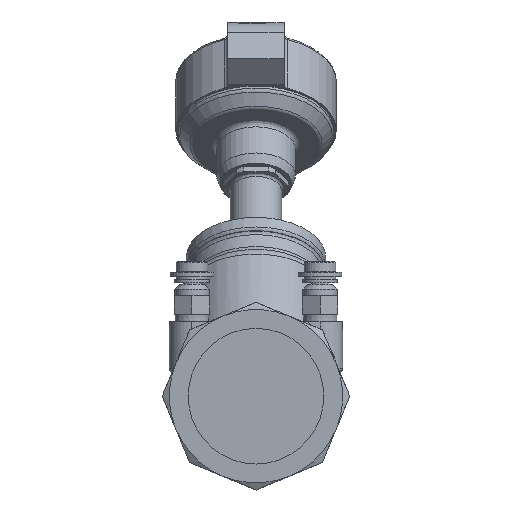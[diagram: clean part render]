
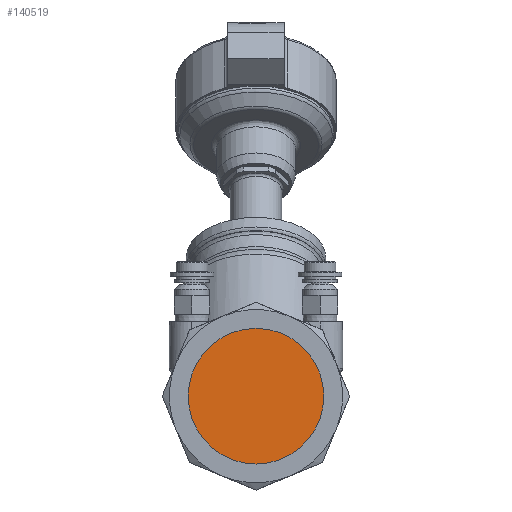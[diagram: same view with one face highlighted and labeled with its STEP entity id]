
A CAD part, left-side view. The second image highlights one B-rep face of the part: STEP entity #140519.
In plain terms, the highlighted free-form (B-spline) face has degree [1, 1] with [2, 2] control points.
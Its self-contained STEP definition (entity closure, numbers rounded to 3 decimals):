
#140499=CARTESIAN_POINT('',(-130.1,-27.,0.));
#140500=VERTEX_POINT('',#140499);
#140501=CARTESIAN_POINT('',(-130.1,0.,0.));
#140502=DIRECTION('',(-1.0,0.0,0.0));
#140503=DIRECTION('',(0.0,-1.0,0.0));
#140504=AXIS2_PLACEMENT_3D('',#140501,#140502,#140503);
#140505=CIRCLE('',#140504,27.0);
#140506=EDGE_CURVE('',#140500,#140500,#140505,.T.);
#140511=CARTESIAN_POINT('',(-130.1,27.,27.));
#140512=CARTESIAN_POINT('',(-130.1,-27.,27.));
#140513=CARTESIAN_POINT('',(-130.1,27.,-27.));
#140514=CARTESIAN_POINT('',(-130.1,-27.,-27.));
#140515=B_SPLINE_SURFACE_WITH_KNOTS('',1,1,((#140511,#140513),(#140512,#140514)),.UNSPECIFIED.,.F.,.F.,.U.,(2,2),(2,2),(0.0,54.0),(0.0,54.0),.UNSPECIFIED.);
#140516=ORIENTED_EDGE('',*,*,#140506,.T.);
#140517=EDGE_LOOP('',(#140516));
#140518=FACE_OUTER_BOUND('',#140517,.T.);
#140519=ADVANCED_FACE('',(#140518),#140515,.F.);
